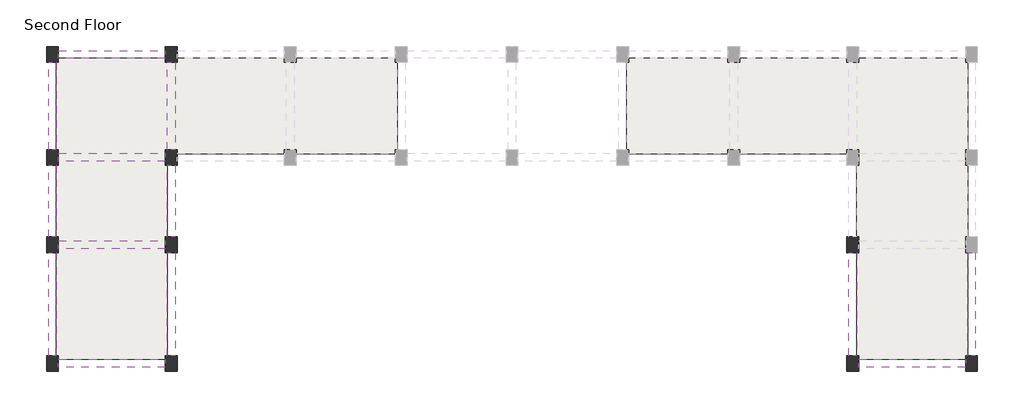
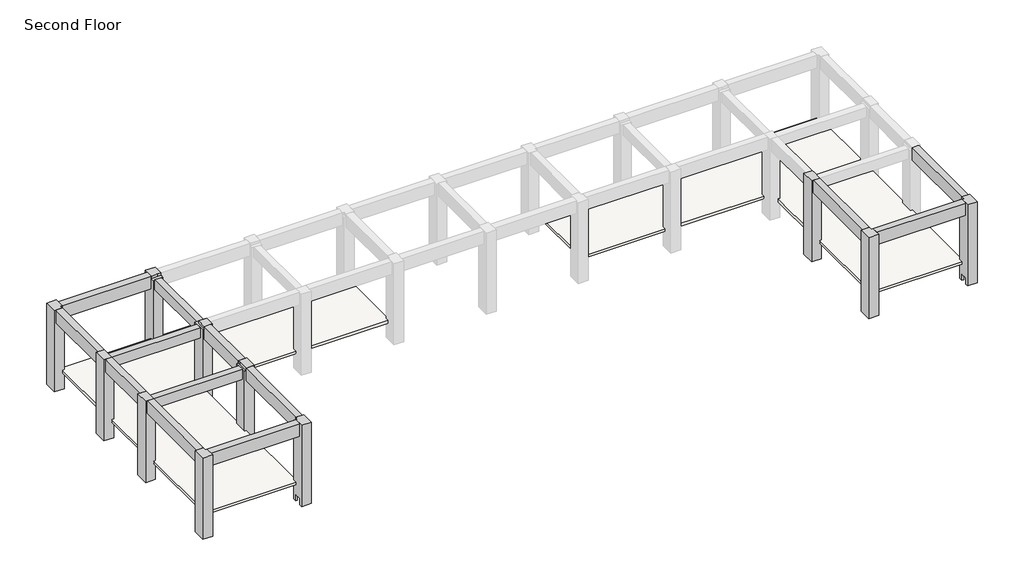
# One storey, part 1 of 2: 13 beams, 11 columns, 2 slabs.
"""IFC4 building model written with IfcOpenShell, lengths in millimetres."""

from ifc_helpers import new_model, si_unit, frame, origin, place, context, project, spatial, polyline, outline, extrude, faceted_brep, element, save

model = new_model("IFC4")

# Units and contexts
model_context = context("Model", 3, world=origin())
ifc_project = project(units=[si_unit("LENGTHUNIT", "METRE", prefix="MILLI")], contexts=[model_context])

# Site, building, storey
site = spatial("IfcSite", under=ifc_project)
building = spatial("IfcBuilding", under=site)
storey = spatial("IfcBuildingStorey", under=building, Name="Second Floor", Elevation=4267.2)

# Beams
placement = place(None, origin())
element("IfcBeam", 1, ObjectType="Concrete-Rectangular Beam : 12 x 24", at=placement, inside=storey, context=model_context, shape_type="SweptSolid", body=[
    extrude(outline(polyline([(-2839.7781752, 13750.5470864), (-2534.9781752, 13750.5470864), (-2534.9781752, 9788.1470864), (-2839.7781752, 9788.1470864), (-2839.7781752, 13750.5470864)])), frame((0.0, 0.0, 6705.6), z_axis=(0.0, 0.0, 1.0), x_axis=(1.0, 0.0, 0.0)), (0.0, 0.0, 1.0), 609.6),
])
element("IfcBeam", 2, ObjectType="Concrete-Rectangular Beam : 12 x 24", at=placement, inside=storey, context=model_context, shape_type="Brep", body=[
    faceted_brep([(-7106.9781752, 13750.5470864, 7315.2), (-7411.7781752, 13750.5470864, 7315.2), (-7411.7781752, 9788.1470864, 7315.2), (-7106.9781752, 9788.1470864, 7315.2), (-7411.7781752, 13750.5470864, 6705.6), (-7411.7781752, 9788.1470864, 6705.6), (-7106.9781752, 13750.5470864, 6705.6), (-7106.9781752, 9788.1470864, 6705.6), (-7106.9781752, 9788.1470864, 7188.2), (-7106.9781752, 13750.5470864, 7188.2)], [[[0, 1, 2, 3]], [[1, 4, 5, 2]], [[4, 6, 7, 5]], [[0, 3, 8, 7, 6, 9]], [[1, 0, 9, 6, 4]], [[3, 2, 5, 7, 8]]]),
])
element("IfcBeam", 3, ObjectType="Concrete-Rectangular Beam : 12 x 24", at=placement, inside=storey, context=model_context, shape_type="SweptSolid", body=[
    extrude(outline(polyline([(-7030.7781752, 9330.9470864), (-7030.7781752, 9635.7470864), (-2915.9781752, 9635.7470864), (-2915.9781752, 9330.9470864), (-7030.7781752, 9330.9470864)])), frame((0.0, 0.0, 6705.6), z_axis=(0.0, 0.0, 1.0), x_axis=(1.0, 0.0, 0.0)), (0.0, 0.0, 1.0), 609.6),
])
element("IfcBeam", 4, ObjectType="Concrete-Rectangular Beam : 12 x 24", at=placement, inside=storey, context=model_context, shape_type="SweptSolid", body=[
    extrude(outline(polyline([(-33624.5781752, 21065.7470864), (-33319.7781752, 21065.7470864), (-33319.7781752, 17712.9470864), (-33624.5781752, 17712.9470864), (-33624.5781752, 21065.7470864)])), frame((0.0, 0.0, 6705.6), z_axis=(0.0, 0.0, 1.0), x_axis=(1.0, 0.0, 0.0)), (0.0, 0.0, 1.0), 482.6),
])
element("IfcBeam", 5, ObjectType="Concrete-Rectangular Beam : 12 x 24", at=placement, inside=storey, context=model_context, shape_type="SweptSolid", body=[
    extrude(outline(polyline([(-33700.7781752, 17560.5470864), (-33700.7781752, 17255.7470864), (-37815.5781752, 17255.7470864), (-37815.5781752, 17560.5470864), (-33700.7781752, 17560.5470864)])), frame((0.0, 0.0, 6705.6), z_axis=(0.0, 0.0, 1.0), x_axis=(1.0, 0.0, 0.0)), (0.0, 0.0, 1.0), 482.6),
])
element("IfcBeam", 6, ObjectType="Concrete-Rectangular Beam : 12 x 24", at=placement, inside=storey, context=model_context, shape_type="SweptSolid", body=[
    extrude(outline(polyline([(-33700.7781752, 14207.7470864), (-33700.7781752, 13902.9470864), (-37815.5781752, 13902.9470864), (-37815.5781752, 14207.7470864), (-33700.7781752, 14207.7470864)])), frame((0.0, 0.0, 6705.6), z_axis=(0.0, 0.0, 1.0), x_axis=(1.0, 0.0, 0.0)), (0.0, 0.0, 1.0), 482.6),
])
element("IfcBeam", 7, ObjectType="Concrete-Rectangular Beam : 12 x 24", at=placement, inside=storey, context=model_context, shape_type="SweptSolid", body=[
    extrude(outline(polyline([(-33700.7781752, 21522.9470864), (-33700.7781752, 21218.1470864), (-37815.5781752, 21218.1470864), (-37815.5781752, 21522.9470864), (-33700.7781752, 21522.9470864)])), frame((0.0, 0.0, 6705.6), z_axis=(0.0, 0.0, 1.0), x_axis=(1.0, 0.0, 0.0)), (0.0, 0.0, 1.0), 609.6),
])
element("IfcBeam", 8, ObjectType="Concrete-Rectangular Beam : 12 x 24", at=placement, inside=storey, context=model_context, shape_type="SweptSolid", body=[
    extrude(outline(polyline([(-38196.5781752, 21065.7470864), (-37891.7781752, 21065.7470864), (-37891.7781752, 17712.9470864), (-38196.5781752, 17712.9470864), (-38196.5781752, 21065.7470864)])), frame((0.0, 0.0, 6705.6), z_axis=(0.0, 0.0, 1.0), x_axis=(1.0, 0.0, 0.0)), (0.0, 0.0, 1.0), 609.6),
])
element("IfcBeam", 9, ObjectType="Concrete-Rectangular Beam : 12 x 24", at=placement, inside=storey, context=model_context, shape_type="SweptSolid", body=[
    extrude(outline(polyline([(-38196.5781752, 17103.3470864), (-37891.7781752, 17103.3470864), (-37891.7781752, 14360.1470864), (-38196.5781752, 14360.1470864), (-38196.5781752, 17103.3470864)])), frame((0.0, 0.0, 6705.6), z_axis=(0.0, 0.0, 1.0), x_axis=(1.0, 0.0, 0.0)), (0.0, 0.0, 1.0), 609.6),
])
element("IfcBeam", 10, ObjectType="Concrete-Rectangular Beam : 12 x 24", at=placement, inside=storey, context=model_context, shape_type="SweptSolid", body=[
    extrude(outline(polyline([(-38196.5781752, 13750.5470864), (-37891.7781752, 13750.5470864), (-37891.7781752, 9788.1470864), (-38196.5781752, 9788.1470864), (-38196.5781752, 13750.5470864)])), frame((0.0, 0.0, 6705.6), z_axis=(0.0, 0.0, 1.0), x_axis=(1.0, 0.0, 0.0)), (0.0, 0.0, 1.0), 609.6),
])
element("IfcBeam", 11, ObjectType="Concrete-Rectangular Beam : 12 x 24", at=placement, inside=storey, context=model_context, shape_type="Brep", body=[
    faceted_brep([(-33319.7781752, 17103.3470864, 7315.2), (-33624.5781752, 17103.3470864, 7315.2), (-33624.5781752, 14360.1470864, 7315.2), (-33319.7781752, 14360.1470864, 7315.2), (-33319.7781752, 17103.3470864, 6705.6), (-33319.7781752, 14360.1470864, 6705.6), (-33624.5781752, 17103.3470864, 6705.6), (-33624.5781752, 14360.1470864, 6705.6), (-33624.5781752, 17103.3470864, 7188.2), (-33624.5781752, 14360.1470864, 7188.2)], [[[0, 1, 2, 3]], [[4, 0, 3, 5]], [[6, 4, 5, 7]], [[2, 1, 8, 6, 7, 9]], [[1, 0, 4, 6, 8]], [[3, 2, 9, 7, 5]]]),
])
element("IfcBeam", 12, ObjectType="Concrete-Rectangular Beam : 12 x 24", at=placement, inside=storey, context=model_context, shape_type="Brep", body=[
    faceted_brep([(-33319.7781752, 13750.5470864, 7315.2), (-33624.5781752, 13750.5470864, 7315.2), (-33624.5781752, 9788.1470864, 7315.2), (-33319.7781752, 9788.1470864, 7315.2), (-33319.7781752, 13750.5470864, 6705.6), (-33319.7781752, 9788.1470864, 6705.6), (-33624.5781752, 13750.5470864, 6705.6), (-33624.5781752, 9788.1470864, 6705.6), (-33624.5781752, 13750.5470864, 7188.2), (-33624.5781752, 9788.1470864, 7188.2)], [[[0, 1, 2, 3]], [[4, 0, 3, 5]], [[6, 4, 5, 7]], [[2, 1, 8, 6, 7, 9]], [[1, 0, 4, 6, 8]], [[3, 2, 9, 7, 5]]]),
])
element("IfcBeam", 13, ObjectType="Concrete-Rectangular Beam : 12 x 24", at=placement, inside=storey, context=model_context, shape_type="SweptSolid", body=[
    extrude(outline(polyline([(-33700.7781752, 9635.7470864), (-33700.7781752, 9330.9470864), (-37815.5781752, 9330.9470864), (-37815.5781752, 9635.7470864), (-33700.7781752, 9635.7470864)])), frame((0.0, 0.0, 6705.6), z_axis=(0.0, 0.0, 1.0), x_axis=(1.0, 0.0, 0.0)), (0.0, 0.0, 1.0), 609.6),
])

# Columns
element("IfcColumn", 14, ObjectType="Concrete-Rectangular-Column : 18 x 24", at=placement, inside=storey, context=model_context, shape_type="Brep", body=[
    faceted_brep([(-7030.7781752, 14360.1470864, 3352.8), (-7030.7781752, 13750.5470864, 3352.8), (-7487.9781752, 13750.5470864, 3352.8), (-7487.9781752, 14360.1470864, 3352.8), (-7030.7781752, 14360.1470864, 7188.2), (-7030.7781752, 13750.5470864, 7188.2), (-7030.7781752, 13750.5470864, 4267.2), (-7030.7781752, 14360.1470864, 4267.2), (-7030.7781752, 13750.5470864, 4140.2), (-7106.9781752, 13750.5470864, 4140.2), (-7106.9781752, 13750.5470864, 4267.2), (-7106.9781752, 13750.5470864, 7188.2), (-7106.9781752, 13750.5470864, 7315.2), (-7487.9781752, 13750.5470864, 7315.2), (-7487.9781752, 14360.1470864, 7315.2), (-7106.9781752, 14360.1470864, 7315.2), (-7106.9781752, 14360.1470864, 7188.2), (-7106.9781752, 14360.1470864, 4267.2), (-7106.9781752, 14360.1470864, 4140.2), (-7030.7781752, 14360.1470864, 4140.2), (-7106.9781752, 14211.6122361, 7315.2), (-7106.9781752, 14211.6122361, 7188.2), (-7106.9781752, 14211.6122361, 4140.2), (-7030.7781752, 13902.9470864, 4140.2), (-7030.7781752, 14207.7470864, 4140.2), (-7106.9781752, 14211.6122361, 4267.2)], [[[0, 1, 2, 3]], [[4, 5, 6, 7]], [[2, 1, 8, 9, 10, 6, 5, 11, 12, 13]], [[3, 2, 13, 14]], [[0, 3, 14, 15, 16, 4, 7, 17, 18, 19]], [[14, 13, 12, 20, 15]], [[16, 21, 11, 5, 4]], [[21, 20, 12, 11]], [[20, 21, 16, 15]], [[18, 22, 9, 8, 23, 24, 19]], [[10, 25, 17, 7, 6]], [[22, 25, 10, 9]], [[25, 22, 18, 17]], [[1, 0, 19, 24, 23, 8]]]),
])
element("IfcColumn", 15, ObjectType="Concrete-Rectangular-Column : 18 x 24", at=placement, inside=storey, context=model_context, shape_type="Brep", body=[
    faceted_brep([(-7106.9781752, 9788.1470864, 3352.8), (-7030.7781752, 9788.1470864, 3352.8), (-7030.7781752, 9635.7470864, 3352.8), (-7106.9781752, 9635.7470864, 3352.8), (-7030.7781752, 9178.5470864, 7315.2), (-7030.7781752, 9178.5470864, 3352.8), (-7030.7781752, 9330.9470864, 3352.8), (-7030.7781752, 9330.9470864, 3657.6), (-7030.7781752, 9635.7470864, 3657.6), (-7030.7781752, 9788.1470864, 4140.2), (-7030.7781752, 9635.7470864, 4140.2), (-7030.7781752, 9635.7470864, 4267.2), (-7030.7781752, 9788.1470864, 4267.2), (-7030.7781752, 9788.1470864, 7188.2), (-7030.7781752, 9635.7470864, 7188.2), (-7030.7781752, 9635.7470864, 7315.2), (-7487.9781752, 9178.5470864, 3352.8), (-7487.9781752, 9178.5470864, 7315.2), (-7487.9781752, 9788.1470864, 3352.8), (-7487.9781752, 9788.1470864, 7315.2), (-7106.9781752, 9788.1470864, 7315.2), (-7106.9781752, 9788.1470864, 7188.2), (-7106.9781752, 9788.1470864, 4267.2), (-7106.9781752, 9788.1470864, 4140.2), (-7106.9781752, 9788.1470864, 3657.6), (-7411.7781752, 9788.1470864, 3657.6), (-7411.7781752, 9788.1470864, 3352.8), (-7106.9781752, 9635.7470864, 7315.2), (-7106.9781752, 9635.7470864, 7188.2), (-7106.9781752, 9635.7470864, 4140.2), (-7106.9781752, 9635.7470864, 4267.2), (-7411.7781752, 9330.9470864, 3657.6), (-7411.7781752, 9330.9470864, 3352.8), (-7106.9781752, 9635.7470864, 3657.6), (-7106.9781752, 9330.9470864, 3657.6)], [[[0, 1, 2, 3]], [[4, 5, 6, 7, 8, 2, 1, 9, 10, 11, 12, 13, 14, 15]], [[16, 5, 4, 17]], [[18, 16, 17, 19]], [[18, 19, 20, 21, 13, 12, 22, 23, 9, 1, 0, 24, 25, 26]], [[17, 4, 15, 27, 20, 19]], [[21, 28, 14, 13]], [[28, 27, 15, 14]], [[27, 28, 21, 20]], [[23, 29, 10, 9]], [[11, 30, 22, 12]], [[29, 30, 11, 10]], [[30, 29, 23, 22]], [[25, 31, 32, 26]], [[24, 0, 3, 33]], [[31, 25, 24, 33, 8, 7, 34]], [[31, 34, 7, 6, 32]], [[8, 33, 3, 2]], [[5, 16, 18, 26, 32, 6]]]),
])
element("IfcColumn", 16, ObjectType="Concrete-Rectangular-Column : 18 x 24", at=placement, inside=storey, context=model_context, shape_type="Brep", body=[
    faceted_brep([(-2915.9781752, 9635.7470864, 3352.8), (-2915.9781752, 9788.1470864, 3352.8), (-2839.7781752, 9788.1470864, 3352.8), (-2839.7781752, 9635.7470864, 3352.8), (-2458.7781752, 9178.5470864, 3352.8), (-2458.7781752, 9788.1470864, 3352.8), (-2458.7781752, 9788.1470864, 7315.2), (-2458.7781752, 9178.5470864, 7315.2), (-2915.9781752, 9178.5470864, 3352.8), (-2915.9781752, 9178.5470864, 7315.2), (-2915.9781752, 9635.7470864, 7315.2), (-2915.9781752, 9635.7470864, 7188.2), (-2915.9781752, 9788.1470864, 7188.2), (-2915.9781752, 9788.1470864, 4267.2), (-2915.9781752, 9635.7470864, 4267.2), (-2915.9781752, 9635.7470864, 4140.2), (-2915.9781752, 9788.1470864, 4140.2), (-2915.9781752, 9635.7470864, 3657.6), (-2915.9781752, 9330.9470864, 3657.6), (-2915.9781752, 9330.9470864, 3352.8), (-2534.9781752, 9788.1470864, 3352.8), (-2534.9781752, 9788.1470864, 3657.6), (-2839.7781752, 9788.1470864, 3657.6), (-2839.7781752, 9788.1470864, 4140.2), (-2839.7781752, 9788.1470864, 4267.2), (-2839.7781752, 9788.1470864, 7188.2), (-2839.7781752, 9788.1470864, 7315.2), (-2839.7781752, 9635.7470864, 7315.2), (-2839.7781752, 9635.7470864, 7188.2), (-2839.7781752, 9635.7470864, 4140.2), (-2839.7781752, 9635.7470864, 4267.2), (-2534.9781752, 9330.9470864, 3657.6), (-2534.9781752, 9330.9470864, 3352.8), (-2839.7781752, 9635.7470864, 3657.6), (-2534.9781752, 9635.7470864, 3657.6)], [[[0, 1, 2, 3]], [[4, 5, 6, 7]], [[8, 4, 7, 9]], [[8, 9, 10, 11, 12, 13, 14, 15, 16, 1, 0, 17, 18, 19]], [[6, 5, 20, 21, 22, 2, 1, 16, 23, 24, 13, 12, 25, 26]], [[7, 6, 26, 27, 10, 9]], [[11, 28, 25, 12]], [[28, 27, 26, 25]], [[27, 28, 11, 10]], [[15, 29, 23, 16]], [[24, 30, 14, 13]], [[29, 30, 24, 23]], [[30, 29, 15, 14]], [[18, 31, 32, 19]], [[17, 0, 3, 33]], [[31, 18, 17, 33, 22, 21, 34]], [[31, 34, 21, 20, 32]], [[22, 33, 3, 2]], [[5, 4, 8, 19, 32, 20]]]),
])
element("IfcColumn", 17, ObjectType="Concrete-Rectangular-Column : 18 x 24", at=placement, inside=storey, context=model_context, shape_type="Brep", body=[
    faceted_brep([(-33700.7781752, 21065.7470864, 3352.8), (-33700.7781752, 21675.3470864, 3352.8), (-33243.5781752, 21675.3470864, 3352.8), (-33243.5781752, 21065.7470864, 3352.8), (-33700.7781752, 21065.7470864, 4140.2), (-33700.7781752, 21218.1470864, 4140.2), (-33700.7781752, 21218.1470864, 4267.2), (-33700.7781752, 21065.7470864, 4267.2), (-33700.7781752, 21065.7470864, 7188.2), (-33700.7781752, 21218.1470864, 7188.2), (-33700.7781752, 21218.1470864, 7315.2), (-33700.7781752, 21675.3470864, 7315.2), (-33243.5781752, 21065.7470864, 7188.2), (-33243.5781752, 21065.7470864, 4267.2), (-33243.5781752, 21675.3470864, 7315.2), (-33243.5781752, 21218.1470864, 7315.2), (-33243.5781752, 21218.1470864, 7188.2), (-33243.5781752, 21218.1470864, 4267.2), (-33243.5781752, 21218.1470864, 4140.2), (-33243.5781752, 21065.7470864, 4140.2), (-33393.6051326, 21218.1470864, 7315.2), (-33393.6051326, 21218.1470864, 7188.2), (-33393.6051326, 21218.1470864, 4140.2), (-33624.5781752, 21065.7470864, 4140.2), (-33319.7781752, 21065.7470864, 4140.2), (-33393.6051326, 21218.1470864, 4267.2)], [[[0, 1, 2, 3]], [[1, 0, 4, 5, 6, 7, 8, 9, 10, 11]], [[12, 8, 7, 13]], [[3, 2, 14, 15, 16, 12, 13, 17, 18, 19]], [[2, 1, 11, 14]], [[14, 11, 10, 20, 15]], [[21, 9, 8, 12, 16]], [[21, 16, 15, 20]], [[9, 21, 20, 10]], [[18, 22, 5, 4, 23, 24, 19]], [[6, 25, 17, 13, 7]], [[25, 22, 18, 17]], [[22, 25, 6, 5]], [[0, 3, 19, 24, 23, 4]]]),
])
element("IfcColumn", 18, ObjectType="Concrete-Rectangular-Column : 18 x 24", at=placement, inside=storey, context=model_context, shape_type="Brep", body=[
    faceted_brep([(-38272.7781752, 21065.7470864, 3352.8), (-38272.7781752, 21675.3470864, 3352.8), (-37815.5781752, 21675.3470864, 3352.8), (-37815.5781752, 21522.9470864, 3352.8), (-38120.3781752, 21522.9470864, 3352.8), (-38120.3781752, 21218.1470864, 3352.8), (-37815.5781752, 21218.1470864, 3352.8), (-37815.5781752, 21065.7470864, 3352.8), (-38272.7781752, 21065.7470864, 7315.2), (-38272.7781752, 21675.3470864, 7315.2), (-37815.5781752, 21065.7470864, 4140.2), (-37891.7781752, 21065.7470864, 4140.2), (-37891.7781752, 21065.7470864, 4267.2), (-37815.5781752, 21065.7470864, 4267.2), (-37815.5781752, 21065.7470864, 7188.2), (-37891.7781752, 21065.7470864, 7188.2), (-37891.7781752, 21065.7470864, 7315.2), (-37815.5781752, 21675.3470864, 7315.2), (-37815.5781752, 21218.1470864, 7315.2), (-37815.5781752, 21218.1470864, 7188.2), (-37815.5781752, 21218.1470864, 4267.2), (-37815.5781752, 21218.1470864, 4140.2), (-37815.5781752, 21218.1470864, 3657.6), (-37815.5781752, 21522.9470864, 3657.6), (-37891.7781752, 21218.1470864, 7315.2), (-37891.7781752, 21218.1470864, 7188.2), (-37891.7781752, 21218.1470864, 4140.2), (-37891.7781752, 21218.1470864, 4267.2), (-38120.3781752, 21522.9470864, 3657.6), (-38120.3781752, 21218.1470864, 3657.6)], [[[0, 1, 2, 3, 4, 5, 6, 7]], [[1, 0, 8, 9]], [[0, 7, 10, 11, 12, 13, 14, 15, 16, 8]], [[2, 17, 18, 19, 14, 13, 20, 21, 10, 7, 6, 22, 23, 3]], [[2, 1, 9, 17]], [[9, 8, 16, 24, 18, 17]], [[25, 15, 14, 19]], [[25, 19, 18, 24]], [[15, 25, 24, 16]], [[21, 26, 11, 10]], [[12, 27, 20, 13]], [[27, 26, 21, 20]], [[26, 27, 12, 11]], [[23, 28, 4, 3]], [[5, 29, 22, 6]], [[28, 29, 5, 4]], [[29, 28, 23, 22]]]),
])
element("IfcColumn", 19, ObjectType="Concrete-Rectangular-Column : 18 x 24", at=placement, inside=storey, context=model_context, shape_type="Brep", body=[
    faceted_brep([(-33700.7781752, 17103.3470864, 3352.8), (-33700.7781752, 17712.9470864, 3352.8), (-33243.5781752, 17712.9470864, 3352.8), (-33243.5781752, 17103.3470864, 3352.8), (-33700.7781752, 17103.3470864, 7188.2), (-33700.7781752, 17712.9470864, 7188.2), (-33700.7781752, 17712.9470864, 4267.2), (-33700.7781752, 17103.3470864, 4267.2), (-33243.5781752, 17103.3470864, 7315.2), (-33624.5781752, 17103.3470864, 7315.2), (-33624.5781752, 17103.3470864, 7188.2), (-33624.5781752, 17103.3470864, 4267.2), (-33624.5781752, 17103.3470864, 4140.2), (-33700.7781752, 17103.3470864, 4140.2), (-33243.5781752, 17712.9470864, 4140.2), (-33243.5781752, 17560.5470864, 4140.2), (-33243.5781752, 17560.5470864, 4267.2), (-33243.5781752, 17712.9470864, 4267.2), (-33243.5781752, 17712.9470864, 7188.2), (-33243.5781752, 17560.5470864, 7188.2), (-33243.5781752, 17560.5470864, 7315.2), (-33624.5781752, 17560.5470864, 7315.2), (-33624.5781752, 17560.5470864, 7188.2), (-33624.5781752, 17560.5470864, 4140.2), (-33319.7781752, 17712.9470864, 4140.2), (-33624.5781752, 17712.9470864, 4140.2), (-33700.7781752, 17712.9470864, 4140.2), (-33700.7781752, 17560.5470864, 4140.2), (-33700.7781752, 17255.7470864, 4140.2), (-33624.5781752, 17560.5470864, 4267.2)], [[[0, 1, 2, 3]], [[4, 5, 6, 7]], [[0, 3, 8, 9, 10, 4, 7, 11, 12, 13]], [[3, 2, 14, 15, 16, 17, 18, 19, 20, 8]], [[5, 18, 17, 6]], [[8, 20, 21, 9]], [[22, 19, 18, 5, 4, 10]], [[22, 10, 9, 21]], [[19, 22, 21, 20]], [[12, 23, 15, 14, 24, 25, 26, 27, 28, 13]], [[16, 29, 11, 7, 6, 17]], [[29, 23, 12, 11]], [[23, 29, 16, 15]], [[1, 0, 13, 28, 27, 26]], [[2, 1, 26, 25, 24, 14]]]),
])
element("IfcColumn", 20, ObjectType="Concrete-Rectangular-Column : 18 x 24", at=placement, inside=storey, context=model_context, shape_type="Brep", body=[
    faceted_brep([(-38272.7781752, 17103.3470864, 3352.8), (-38272.7781752, 17712.9470864, 3352.8), (-38196.5781752, 17712.9470864, 3352.8), (-38196.5781752, 17560.5470864, 3352.8), (-37891.7781752, 17560.5470864, 3352.8), (-37891.7781752, 17712.9470864, 3352.8), (-37815.5781752, 17712.9470864, 3352.8), (-37815.5781752, 17103.3470864, 3352.8), (-38272.7781752, 17103.3470864, 7315.2), (-38272.7781752, 17712.9470864, 7315.2), (-37815.5781752, 17103.3470864, 4140.2), (-37891.7781752, 17103.3470864, 4140.2), (-37891.7781752, 17103.3470864, 4267.2), (-37815.5781752, 17103.3470864, 4267.2), (-37815.5781752, 17103.3470864, 7188.2), (-37891.7781752, 17103.3470864, 7188.2), (-37891.7781752, 17103.3470864, 7315.2), (-37815.5781752, 17712.9470864, 7188.2), (-37815.5781752, 17712.9470864, 4267.2), (-37891.7781752, 17712.9470864, 7315.2), (-37891.7781752, 17712.9470864, 7188.2), (-37891.7781752, 17712.9470864, 4267.2), (-37891.7781752, 17712.9470864, 4140.2), (-37815.5781752, 17712.9470864, 4140.2), (-37891.7781752, 17712.9470864, 3657.6), (-38196.5781752, 17712.9470864, 3657.6), (-37891.7781752, 17107.3073578, 7315.2), (-37891.7781752, 17107.3073578, 7188.2), (-37891.7781752, 17107.3073578, 4140.2), (-37815.5781752, 17255.7470864, 4140.2), (-37815.5781752, 17560.5470864, 4140.2), (-37891.7781752, 17107.3073578, 4267.2), (-37891.7781752, 17560.5470864, 3657.6), (-38196.5781752, 17560.5470864, 3657.6)], [[[0, 1, 2, 3, 4, 5, 6, 7]], [[1, 0, 8, 9]], [[0, 7, 10, 11, 12, 13, 14, 15, 16, 8]], [[17, 14, 13, 18]], [[1, 9, 19, 20, 17, 18, 21, 22, 23, 6, 5, 24, 25, 2]], [[9, 8, 16, 26, 19]], [[27, 15, 14, 17, 20]], [[27, 20, 19, 26]], [[15, 27, 26, 16]], [[22, 28, 11, 10, 29, 30, 23]], [[12, 31, 21, 18, 13]], [[31, 28, 22, 21]], [[28, 31, 12, 11]], [[7, 6, 23, 30, 29, 10]], [[4, 32, 24, 5]], [[25, 33, 3, 2]], [[32, 33, 25, 24]], [[33, 32, 4, 3]]]),
])
element("IfcColumn", 21, ObjectType="Concrete-Rectangular-Column : 18 x 24", at=placement, inside=storey, context=model_context, shape_type="Brep", body=[
    faceted_brep([(-33700.7781752, 13750.5470864, 3352.8), (-33700.7781752, 14360.1470864, 3352.8), (-33243.5781752, 14360.1470864, 3352.8), (-33243.5781752, 13750.5470864, 3352.8), (-33700.7781752, 13750.5470864, 7188.2), (-33700.7781752, 14360.1470864, 7188.2), (-33700.7781752, 14360.1470864, 4267.2), (-33700.7781752, 13750.5470864, 4267.2), (-33243.5781752, 13750.5470864, 7315.2), (-33624.5781752, 13750.5470864, 7315.2), (-33624.5781752, 13750.5470864, 7188.2), (-33624.5781752, 13750.5470864, 4267.2), (-33624.5781752, 13750.5470864, 4140.2), (-33700.7781752, 13750.5470864, 4140.2), (-33243.5781752, 14360.1470864, 7315.2), (-33700.7781752, 14360.1470864, 4140.2), (-33624.5781752, 14360.1470864, 4140.2), (-33624.5781752, 14360.1470864, 4267.2), (-33624.5781752, 14360.1470864, 7188.2), (-33624.5781752, 14360.1470864, 7315.2), (-33624.5781752, 14211.6122361, 7315.2), (-33624.5781752, 14211.6122361, 7188.2), (-33624.5781752, 14211.6122361, 4140.2), (-33700.7781752, 14207.7470864, 4140.2), (-33700.7781752, 13902.9470864, 4140.2), (-33624.5781752, 14211.6122361, 4267.2)], [[[0, 1, 2, 3]], [[4, 5, 6, 7]], [[0, 3, 8, 9, 10, 4, 7, 11, 12, 13]], [[3, 2, 14, 8]], [[2, 1, 15, 16, 17, 6, 5, 18, 19, 14]], [[8, 14, 19, 20, 9]], [[21, 18, 5, 4, 10]], [[21, 10, 9, 20]], [[18, 21, 20, 19]], [[12, 22, 16, 15, 23, 24, 13]], [[17, 25, 11, 7, 6]], [[25, 22, 12, 11]], [[22, 25, 17, 16]], [[1, 0, 13, 24, 23, 15]]]),
])
element("IfcColumn", 22, ObjectType="Concrete-Rectangular-Column : 18 x 24", at=placement, inside=storey, context=model_context, shape_type="Brep", body=[
    faceted_brep([(-38272.7781752, 13750.5470864, 3352.8), (-38272.7781752, 14360.1470864, 3352.8), (-38196.5781752, 14360.1470864, 3352.8), (-38196.5781752, 14207.7470864, 3352.8), (-37891.7781752, 14207.7470864, 3352.8), (-37891.7781752, 14360.1470864, 3352.8), (-37815.5781752, 14360.1470864, 3352.8), (-37815.5781752, 13750.5470864, 3352.8), (-38272.7781752, 13750.5470864, 7315.2), (-38272.7781752, 14360.1470864, 7315.2), (-37815.5781752, 13750.5470864, 4140.2), (-37891.7781752, 13750.5470864, 4140.2), (-37891.7781752, 13750.5470864, 4267.2), (-37815.5781752, 13750.5470864, 4267.2), (-37815.5781752, 13750.5470864, 7188.2), (-37891.7781752, 13750.5470864, 7188.2), (-37891.7781752, 13750.5470864, 7315.2), (-37815.5781752, 14360.1470864, 7188.2), (-37815.5781752, 14360.1470864, 4267.2), (-37891.7781752, 14360.1470864, 7315.2), (-37891.7781752, 14360.1470864, 7188.2), (-37891.7781752, 14360.1470864, 4267.2), (-37891.7781752, 14360.1470864, 4140.2), (-37815.5781752, 14360.1470864, 4140.2), (-37891.7781752, 14360.1470864, 3657.6), (-38196.5781752, 14360.1470864, 3657.6), (-37891.7781752, 14203.6458879, 7315.2), (-37891.7781752, 14203.6458879, 7188.2), (-37891.7781752, 14203.6458879, 4140.2), (-37815.5781752, 13902.9470864, 4140.2), (-37815.5781752, 14207.7470864, 4140.2), (-37891.7781752, 14203.6458879, 4267.2), (-37891.7781752, 14207.7470864, 3657.6), (-38196.5781752, 14207.7470864, 3657.6)], [[[0, 1, 2, 3, 4, 5, 6, 7]], [[1, 0, 8, 9]], [[0, 7, 10, 11, 12, 13, 14, 15, 16, 8]], [[17, 14, 13, 18]], [[1, 9, 19, 20, 17, 18, 21, 22, 23, 6, 5, 24, 25, 2]], [[9, 8, 16, 26, 19]], [[27, 15, 14, 17, 20]], [[27, 20, 19, 26]], [[15, 27, 26, 16]], [[22, 28, 11, 10, 29, 30, 23]], [[12, 31, 21, 18, 13]], [[31, 28, 22, 21]], [[28, 31, 12, 11]], [[7, 6, 23, 30, 29, 10]], [[4, 32, 24, 5]], [[25, 33, 3, 2]], [[32, 33, 25, 24]], [[33, 32, 4, 3]]]),
])
element("IfcColumn", 23, ObjectType="Concrete-Rectangular-Column : 18 x 24", at=placement, inside=storey, context=model_context, shape_type="Brep", body=[
    faceted_brep([(-33243.5781752, 9178.5470864, 3352.8), (-33700.7781752, 9178.5470864, 3352.8), (-33700.7781752, 9330.9470864, 3352.8), (-33319.7781752, 9330.9470864, 3352.8), (-33319.7781752, 9788.1470864, 3352.8), (-33243.5781752, 9788.1470864, 3352.8), (-33700.7781752, 9178.5470864, 7315.2), (-33700.7781752, 9635.7470864, 7315.2), (-33700.7781752, 9635.7470864, 7188.2), (-33700.7781752, 9788.1470864, 7188.2), (-33700.7781752, 9788.1470864, 4267.2), (-33700.7781752, 9635.7470864, 4267.2), (-33700.7781752, 9635.7470864, 4140.2), (-33700.7781752, 9788.1470864, 4140.2), (-33700.7781752, 9788.1470864, 3352.8), (-33700.7781752, 9635.7470864, 3352.8), (-33700.7781752, 9635.7470864, 3657.6), (-33700.7781752, 9330.9470864, 3657.6), (-33243.5781752, 9178.5470864, 7315.2), (-33243.5781752, 9788.1470864, 7315.2), (-33319.7781752, 9788.1470864, 3657.6), (-33624.5781752, 9788.1470864, 3657.6), (-33624.5781752, 9788.1470864, 3352.8), (-33624.5781752, 9788.1470864, 4140.2), (-33624.5781752, 9788.1470864, 4267.2), (-33624.5781752, 9788.1470864, 7188.2), (-33624.5781752, 9788.1470864, 7315.2), (-33624.5781752, 9635.7470864, 7315.2), (-33624.5781752, 9635.7470864, 7188.2), (-33624.5781752, 9635.7470864, 4140.2), (-33624.5781752, 9635.7470864, 4267.2), (-33624.5781752, 9635.7470864, 3657.6), (-33624.5781752, 9635.7470864, 3352.8), (-33319.7781752, 9330.9470864, 3657.6), (-33624.5781752, 9330.9470864, 3657.6)], [[[0, 1, 2, 3, 4, 5]], [[1, 6, 7, 8, 9, 10, 11, 12, 13, 14, 15, 16, 17, 2]], [[1, 0, 18, 6]], [[0, 5, 19, 18]], [[19, 5, 4, 20, 21, 22, 14, 13, 23, 24, 10, 9, 25, 26]], [[6, 18, 19, 26, 27, 7]], [[28, 25, 9, 8]], [[28, 8, 7, 27]], [[25, 28, 27, 26]], [[12, 29, 23, 13]], [[24, 30, 11, 10]], [[30, 29, 12, 11]], [[29, 30, 24, 23]], [[22, 21, 31, 32]], [[3, 33, 20, 4]], [[17, 16, 31, 21, 20, 33, 34]], [[17, 34, 33, 3, 2]], [[31, 16, 15, 32]], [[14, 22, 32, 15]]]),
])
element("IfcColumn", 24, ObjectType="Concrete-Rectangular-Column : 18 x 24", at=placement, inside=storey, context=model_context, shape_type="Brep", body=[
    faceted_brep([(-37815.5781752, 9788.1470864, 3352.8), (-37815.5781752, 9635.7470864, 3352.8), (-37891.7781752, 9635.7470864, 3352.8), (-37891.7781752, 9788.1470864, 3352.8), (-38272.7781752, 9788.1470864, 3352.8), (-38272.7781752, 9178.5470864, 3352.8), (-38272.7781752, 9178.5470864, 7315.2), (-38272.7781752, 9788.1470864, 7315.2), (-37815.5781752, 9178.5470864, 3352.8), (-37815.5781752, 9178.5470864, 7315.2), (-37815.5781752, 9330.9470864, 3352.8), (-37815.5781752, 9330.9470864, 3657.6), (-37815.5781752, 9635.7470864, 3657.6), (-37815.5781752, 9788.1470864, 4140.2), (-37815.5781752, 9635.7470864, 4140.2), (-37815.5781752, 9635.7470864, 4267.2), (-37815.5781752, 9788.1470864, 4267.2), (-37815.5781752, 9788.1470864, 7188.2), (-37815.5781752, 9635.7470864, 7188.2), (-37815.5781752, 9635.7470864, 7315.2), (-37891.7781752, 9788.1470864, 7315.2), (-37891.7781752, 9788.1470864, 7188.2), (-37891.7781752, 9788.1470864, 4267.2), (-37891.7781752, 9788.1470864, 4140.2), (-37891.7781752, 9788.1470864, 3657.6), (-38196.5781752, 9788.1470864, 3657.6), (-38196.5781752, 9788.1470864, 3352.8), (-37891.7781752, 9635.7470864, 7315.2), (-37891.7781752, 9635.7470864, 7188.2), (-37891.7781752, 9635.7470864, 4140.2), (-37891.7781752, 9635.7470864, 4267.2), (-37891.7781752, 9635.7470864, 3657.6), (-38196.5781752, 9330.9470864, 3352.8), (-38196.5781752, 9330.9470864, 3657.6), (-38196.5781752, 9635.7470864, 3657.6)], [[[0, 1, 2, 3]], [[4, 5, 6, 7]], [[5, 8, 9, 6]], [[9, 8, 10, 11, 12, 1, 0, 13, 14, 15, 16, 17, 18, 19]], [[4, 7, 20, 21, 17, 16, 22, 23, 13, 0, 3, 24, 25, 26]], [[7, 6, 9, 19, 27, 20]], [[28, 18, 17, 21]], [[28, 21, 20, 27]], [[18, 28, 27, 19]], [[23, 29, 14, 13]], [[15, 30, 22, 16]], [[30, 29, 23, 22]], [[29, 30, 15, 14]], [[1, 12, 31, 2]], [[32, 33, 11, 10]], [[25, 24, 31, 12, 11, 33, 34]], [[25, 34, 33, 32, 26]], [[31, 24, 3, 2]], [[5, 4, 26, 32, 10, 8]]]),
])

# Slabs
element("IfcSlab", 25, ObjectType="3\" LW Concrete on 2\" Metal Deck", at=placement, inside=storey, context=model_context, shape_type="Brep", body=[
    faceted_brep([(-15946.1781752, 17560.5470864, 4140.2), (-15946.1781752, 17712.9470864, 4140.2), (-15946.1781752, 21065.7470864, 4140.2), (-15946.1781752, 21218.1470864, 4140.2), (-15869.9781752, 21218.1470864, 4140.2), (-12059.9781752, 21218.1470864, 4140.2), (-11602.7781752, 21218.1470864, 4140.2), (-11500.8917982, 21218.1470864, 4140.2), (-7487.9781752, 21218.1470864, 4140.2), (-7337.9512179, 21218.1470864, 4140.2), (-7030.7781752, 21218.1470864, 4140.2), (-2915.9781752, 21218.1470864, 4140.2), (-2839.7781752, 21218.1470864, 4140.2), (-2839.7781752, 21065.7470864, 4140.2), (-2839.7781752, 17712.9470864, 4140.2), (-2839.7781752, 17107.3073578, 4140.2), (-2839.7781752, 17103.3470864, 4140.2), (-2839.7781752, 14360.1470864, 4140.2), (-2839.7781752, 14203.6458879, 4140.2), (-2839.7781752, 13750.5470864, 4140.2), (-2839.7781752, 9788.1470864, 4140.2), (-2839.7781752, 9635.7470864, 4140.2), (-2915.9781752, 9635.7470864, 4140.2), (-7030.7781752, 9635.7470864, 4140.2), (-7106.9781752, 9635.7470864, 4140.2), (-7106.9781752, 9788.1470864, 4140.2), (-7106.9781752, 13750.5470864, 4140.2), (-7106.9781752, 14211.6122361, 4140.2), (-7106.9781752, 14360.1470864, 4140.2), (-7106.9781752, 17103.3470864, 4140.2), (-7106.9781752, 17560.5470864, 4140.2), (-7487.9781752, 17560.5470864, 4140.2), (-11602.7781752, 17560.5470864, 4140.2), (-11869.525863, 17560.5470864, 4140.2), (-12059.9781752, 17560.5470864, 4140.2), (-15869.9781752, 17560.5470864, 4140.2), (-15946.1781752, 17560.5470864, 4267.2), (-15869.9781752, 17560.5470864, 4267.2), (-12059.9781752, 17560.5470864, 4267.2), (-11869.525863, 17560.5470864, 4267.2), (-11602.7781752, 17560.5470864, 4267.2), (-7487.9781752, 17560.5470864, 4267.2), (-7106.9781752, 17560.5470864, 4267.2), (-7106.9781752, 17103.3470864, 4267.2), (-7106.9781752, 14360.1470864, 4267.2), (-7106.9781752, 14211.6122361, 4267.2), (-7106.9781752, 13750.5470864, 4267.2), (-7106.9781752, 9788.1470864, 4267.2), (-7106.9781752, 9635.7470864, 4267.2), (-7030.7781752, 9635.7470864, 4267.2), (-2915.9781752, 9635.7470864, 4267.2), (-2839.7781752, 9635.7470864, 4267.2), (-2839.7781752, 9788.1470864, 4267.2), (-2839.7781752, 13750.5470864, 4267.2), (-2839.7781752, 14203.6458879, 4267.2), (-2839.7781752, 14360.1470864, 4267.2), (-2839.7781752, 17103.3470864, 4267.2), (-2839.7781752, 17107.3073578, 4267.2), (-2839.7781752, 17712.9470864, 4267.2), (-2839.7781752, 21065.7470864, 4267.2), (-2839.7781752, 21218.1470864, 4267.2), (-2915.9781752, 21218.1470864, 4267.2), (-7030.7781752, 21218.1470864, 4267.2), (-7337.9512179, 21218.1470864, 4267.2), (-7487.9781752, 21218.1470864, 4267.2), (-11500.8917982, 21218.1470864, 4267.2), (-11602.7781752, 21218.1470864, 4267.2), (-12059.9781752, 21218.1470864, 4267.2), (-15869.9781752, 21218.1470864, 4267.2), (-15946.1781752, 21218.1470864, 4267.2), (-15946.1781752, 21065.7470864, 4267.2), (-15946.1781752, 17712.9470864, 4267.2)], [[[0, 1, 2, 3, 4, 5, 6, 7, 8, 9, 10, 11, 12, 13, 14, 15, 16, 17, 18, 19, 20, 21, 22, 23, 24, 25, 26, 27, 28, 29, 30, 31, 32, 33, 34, 35]], [[36, 37, 38, 39, 40, 41, 42, 43, 44, 45, 46, 47, 48, 49, 50, 51, 52, 53, 54, 55, 56, 57, 58, 59, 60, 61, 62, 63, 64, 65, 66, 67, 68, 69, 70, 71]], [[3, 2, 1, 0, 36, 71, 70, 69]], [[7, 6, 5, 4, 3, 69, 68, 67, 66, 65]], [[9, 8, 7, 65, 64, 63]], [[12, 11, 10, 9, 63, 62, 61, 60]], [[15, 14, 13, 12, 60, 59, 58, 57]], [[18, 17, 16, 15, 57, 56, 55, 54]], [[21, 20, 19, 18, 54, 53, 52, 51]], [[24, 23, 22, 21, 51, 50, 49, 48]], [[27, 26, 25, 24, 48, 47, 46, 45]], [[30, 29, 28, 27, 45, 44, 43, 42]], [[33, 32, 31, 30, 42, 41, 40, 39]], [[0, 35, 34, 33, 39, 38, 37, 36]]]),
])
element("IfcSlab", 26, ObjectType="3\" LW Concrete on 2\" Metal Deck", at=placement, inside=storey, context=model_context, shape_type="Brep", body=[
    faceted_brep([(-24785.3781752, 17560.5470864, 4140.2), (-24861.5781752, 17560.5470864, 4140.2), (-28671.5781752, 17560.5470864, 4140.2), (-28862.0304875, 17560.5470864, 4140.2), (-29128.7781752, 17560.5470864, 4140.2), (-33243.5781752, 17560.5470864, 4140.2), (-33624.5781752, 17560.5470864, 4140.2), (-33624.5781752, 17103.3470864, 4140.2), (-33624.5781752, 14360.1470864, 4140.2), (-33624.5781752, 14211.6122361, 4140.2), (-33624.5781752, 13750.5470864, 4140.2), (-33624.5781752, 9788.1470864, 4140.2), (-33624.5781752, 9635.7470864, 4140.2), (-33700.7781752, 9635.7470864, 4140.2), (-37815.5781752, 9635.7470864, 4140.2), (-37891.7781752, 9635.7470864, 4140.2), (-37891.7781752, 9788.1470864, 4140.2), (-37891.7781752, 13750.5470864, 4140.2), (-37891.7781752, 14203.6458879, 4140.2), (-37891.7781752, 14360.1470864, 4140.2), (-37891.7781752, 17103.3470864, 4140.2), (-37891.7781752, 17107.3073578, 4140.2), (-37891.7781752, 17712.9470864, 4140.2), (-37891.7781752, 21065.7470864, 4140.2), (-37891.7781752, 21218.1470864, 4140.2), (-37815.5781752, 21218.1470864, 4140.2), (-33700.7781752, 21218.1470864, 4140.2), (-33393.6051326, 21218.1470864, 4140.2), (-33243.5781752, 21218.1470864, 4140.2), (-29230.6645523, 21218.1470864, 4140.2), (-29128.7781752, 21218.1470864, 4140.2), (-28671.5781752, 21218.1470864, 4140.2), (-24861.5781752, 21218.1470864, 4140.2), (-24785.3781752, 21218.1470864, 4140.2), (-24785.3781752, 21065.7470864, 4140.2), (-24785.3781752, 17712.9470864, 4140.2), (-24785.3781752, 17560.5470864, 4267.2), (-24785.3781752, 17712.9470864, 4267.2), (-24785.3781752, 21065.7470864, 4267.2), (-24785.3781752, 21218.1470864, 4267.2), (-24861.5781752, 21218.1470864, 4267.2), (-28671.5781752, 21218.1470864, 4267.2), (-29128.7781752, 21218.1470864, 4267.2), (-29230.6645523, 21218.1470864, 4267.2), (-33243.5781752, 21218.1470864, 4267.2), (-33393.6051326, 21218.1470864, 4267.2), (-33700.7781752, 21218.1470864, 4267.2), (-37815.5781752, 21218.1470864, 4267.2), (-37891.7781752, 21218.1470864, 4267.2), (-37891.7781752, 21065.7470864, 4267.2), (-37891.7781752, 17712.9470864, 4267.2), (-37891.7781752, 17107.3073578, 4267.2), (-37891.7781752, 17103.3470864, 4267.2), (-37891.7781752, 14360.1470864, 4267.2), (-37891.7781752, 14203.6458879, 4267.2), (-37891.7781752, 13750.5470864, 4267.2), (-37891.7781752, 9788.1470864, 4267.2), (-37891.7781752, 9635.7470864, 4267.2), (-37815.5781752, 9635.7470864, 4267.2), (-33700.7781752, 9635.7470864, 4267.2), (-33624.5781752, 9635.7470864, 4267.2), (-33624.5781752, 9788.1470864, 4267.2), (-33624.5781752, 13750.5470864, 4267.2), (-33624.5781752, 14211.6122361, 4267.2), (-33624.5781752, 14360.1470864, 4267.2), (-33624.5781752, 17103.3470864, 4267.2), (-33624.5781752, 17560.5470864, 4267.2), (-33243.5781752, 17560.5470864, 4267.2), (-29128.7781752, 17560.5470864, 4267.2), (-28862.0304875, 17560.5470864, 4267.2), (-28671.5781752, 17560.5470864, 4267.2), (-24861.5781752, 17560.5470864, 4267.2)], [[[0, 1, 2, 3, 4, 5, 6, 7, 8, 9, 10, 11, 12, 13, 14, 15, 16, 17, 18, 19, 20, 21, 22, 23, 24, 25, 26, 27, 28, 29, 30, 31, 32, 33, 34, 35]], [[36, 37, 38, 39, 40, 41, 42, 43, 44, 45, 46, 47, 48, 49, 50, 51, 52, 53, 54, 55, 56, 57, 58, 59, 60, 61, 62, 63, 64, 65, 66, 67, 68, 69, 70, 71]], [[0, 35, 34, 33, 39, 38, 37, 36]], [[33, 32, 31, 30, 29, 43, 42, 41, 40, 39]], [[29, 28, 27, 45, 44, 43]], [[27, 26, 25, 24, 48, 47, 46, 45]], [[24, 23, 22, 21, 51, 50, 49, 48]], [[21, 20, 19, 18, 54, 53, 52, 51]], [[18, 17, 16, 15, 57, 56, 55, 54]], [[15, 14, 13, 12, 60, 59, 58, 57]], [[12, 11, 10, 9, 63, 62, 61, 60]], [[9, 8, 7, 6, 66, 65, 64, 63]], [[6, 5, 4, 3, 69, 68, 67, 66]], [[3, 2, 1, 0, 36, 71, 70, 69]]]),
])

save(model, "model.ifc")
